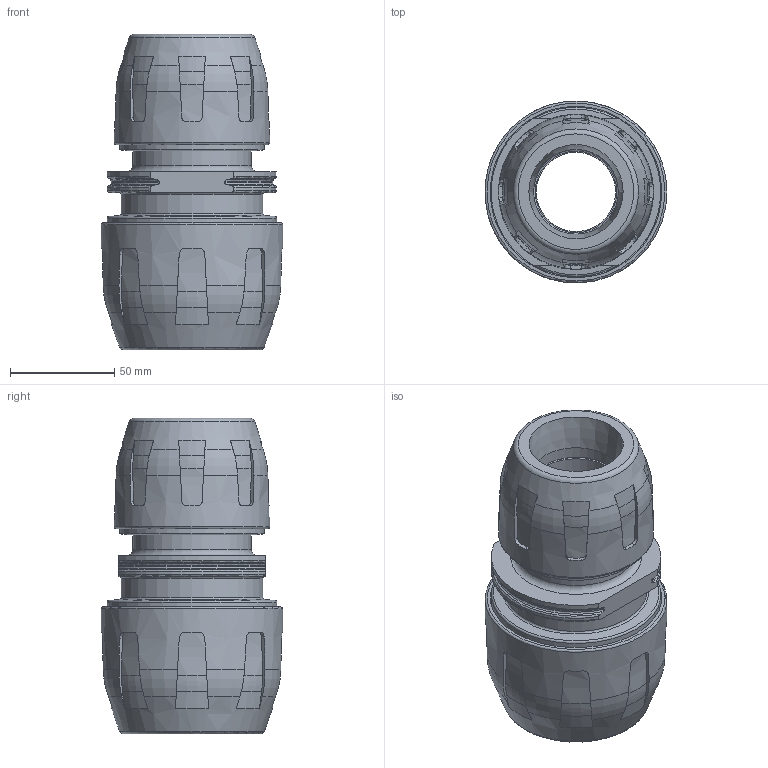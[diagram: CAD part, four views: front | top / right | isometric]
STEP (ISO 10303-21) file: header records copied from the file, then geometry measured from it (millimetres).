
FILE_DESCRIPTION( ( 'STEP AP214' ), '1' );
FILE_NAME( ' ', ' ', ( ' ' ), ( ' ' ), 'PSStep 11.0', 'VISI 17.0', ' ' );
FILE_SCHEMA( ( 'AUTOMOTIVE_DESIGN { 1 0 10303 214 1 1 1 1 }' ) );
Length unit declared in the file: millimetre
Products named in the file (3): 1; 2; 3
Bounding box: 87.34 x 87.31 x 151.46 mm (x, y, z)
Volume: 417054 mm3; surface area: 110723.7 mm2
Topology: 3 solids, 3 shells, 431 faces, 1211 edges, 802 vertices
Faces by surface type: plane 216, cone 96, cylinder 59, bspline 32, torus 28
Full cylindrical faces by diameter (mm): 38 x1, 40.7 x1, 40.9 x1, 50.625 x1, 50.8 x1, 57 x1, 58.9 x1, 59.8 x2, 64 x1, 65.4 x1, 68 x1, 69.4 x1, 70 x1, 70.4 x1, 71.6 x2, 76 x1, 76.4 x1, 81.4 x1, 82.4 x1
Entity records: 18846 total; most frequent: CARTESIAN_POINT 5032, ORIENTED_EDGE 2284, DIRECTION 1992, EDGE_CURVE 1142, AXIS2_PLACEMENT_3D 860, VERTEX_POINT 784, EDGE_LOOP 504, FACE_OUTER_BOUND 470
